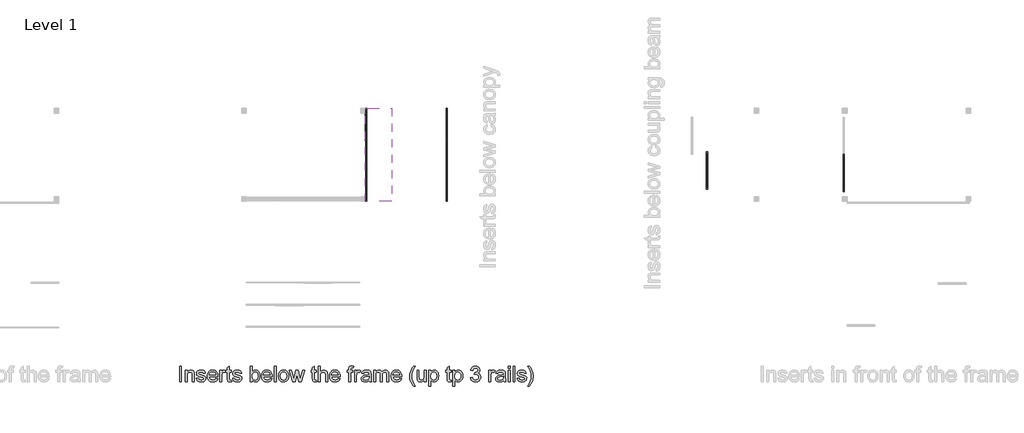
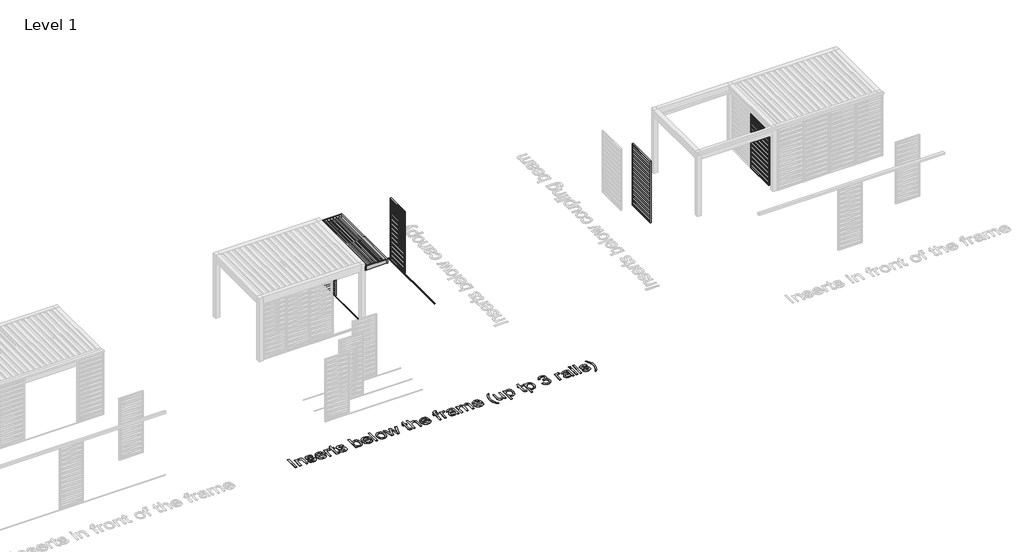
# One storey, part 29 of 80: 6 proxies.
"""IFC4 building model written with IfcOpenShell, lengths in millimetres."""

from ifc_helpers import new_model, si_unit, origin, origin_with_axes, place, context, project, spatial, polyline, outline, extrude, transform, mapped, element, save
from components import generic_models_3681f2a6, generic_models_d7c722b4, generic_models_106a7d22

model = new_model("IFC4")

# Units and contexts
model_context = context("Model", 3, world=origin())
ifc_project = project(units=[si_unit("LENGTHUNIT", "METRE", prefix="MILLI")], contexts=[model_context])

# Site, building, storey
site = spatial("IfcSite", under=ifc_project)
building = spatial("IfcBuilding", under=site)
storey = spatial("IfcBuildingStorey", under=building, Name="Level 1", Elevation=0.0)

# Proxies
placement = place(None, origin())
generic_models_shape = generic_models_3681f2a6(model_context)
element("IfcBuildingElementProxy", 1, Name="Renson_Amani_Canopy : Renson_Amani_Canopy", ObjectType="Renson_Amani_Canopy : Renson_Amani_Canopy", at=placement, inside=storey, context=model_context, shape_type="MappedRepresentation", body=[
    mapped(generic_models_shape, transform((432410.5749426, -41059.318181, 2400.0), x_axis=(0.0, 1.0, 0.0), y_axis=(-1.0, 0.0, 0.0), z_axis=(0.0, 0.0, 1.0))),
])
generic_models_2_shape = generic_models_d7c722b4(model_context)
element("IfcBuildingElementProxy", 2, Name="Renson_Amani_Loggia_Paro_Aluminium_Sliding : Renson_Amani_Loggia_Paro_Aluminium_Sliding", ObjectType="Renson_Amani_Loggia_Paro_Aluminium_Sliding : Renson_Amani_Loggia_Paro_Aluminium_Sliding", at=placement, inside=storey, context=model_context, shape_type="MappedRepresentation", body=[
    mapped(generic_models_2_shape, transform((432430.5749426, -38659.318181, 0.0), x_axis=(0.0, -1.0, 0.0), y_axis=(1.0, 0.0, 0.0), z_axis=(0.0, 0.0, 1.0))),
])
element("IfcBuildingElementProxy", 3, Name="Renson_Amani_Loggia_Paro_Aluminium_Sliding : Renson_Amani_Loggia_Paro_Aluminium_Sliding", ObjectType="Renson_Amani_Loggia_Paro_Aluminium_Sliding : Renson_Amani_Loggia_Paro_Aluminium_Sliding", at=placement, inside=storey, context=model_context, shape_type="MappedRepresentation", body=[
    mapped(generic_models_2_shape, transform((435030.5749426, -38659.318181, 0.0), x_axis=(0.0, -1.0, 0.0), y_axis=(1.0, 0.0, 0.0), z_axis=(0.0, 0.0, 1.0))),
])
generic_models_3_shape = generic_models_106a7d22(model_context)
element("IfcBuildingElementProxy", 4, Name="Renson_Amani_Loggia_Paro_Aluminium_Fix : Renson_Amani_Loggia_Paro_Aluminium_Fix", ObjectType="Renson_Amani_Loggia_Paro_Aluminium_Fix : Renson_Amani_Loggia_Paro_Aluminium_Fix", at=placement, inside=storey, context=model_context, shape_type="MappedRepresentation", body=[
    mapped(generic_models_3_shape, transform((443436.3699543, -40060.1026897, 0.0), x_axis=(0.0, -1.0, 0.0), y_axis=(1.0, 0.0, 0.0), z_axis=(0.0, 0.0, 1.0))),
])
element("IfcBuildingElementProxy", 5, Name="Renson_Amani_Loggia_Paro_Aluminium_Fix : Renson_Amani_Loggia_Paro_Aluminium_Fix", ObjectType="Renson_Amani_Loggia_Paro_Aluminium_Fix : Renson_Amani_Loggia_Paro_Aluminium_Fix", at=placement, inside=storey, context=model_context, shape_type="MappedRepresentation", body=[
    mapped(generic_models_3_shape, transform((447856.3699543, -40140.1026897, 0.0), x_axis=(0.0, -1.0, 0.0), y_axis=(1.0, 0.0, 0.0), z_axis=(0.0, 0.0, 1.0))),
])
element("IfcBuildingElementProxy", 6, Name="500mm Arial", ObjectType="500mm Arial", at=placement, inside=storey, context=model_context, shape_type="SweptSolid", body=[
    extrude(outline(polyline([(426406.2654479, -46882.3382736), (426406.2654479, -46380.0567228), (426469.0506417, -46380.0567228), (426469.0506417, -46882.3382736), (426406.2654479, -46882.3382736)])), origin_with_axes(), (0.0, 0.0, 1.0), 5.0),
    extrude(outline(polyline([(426586.7728802, -46882.3382736), (426586.7728802, -46513.4752597), (426649.558074, -46513.4752597), (426649.558074, -46564.9787391), (426671.3704107, -46539.0124016), (426697.5666744, -46520.4650176), (426728.1468653, -46509.3365873), (426763.1109832, -46505.6271105), (426794.0590561, -46508.6161517), (426822.4012981, -46517.5832753), (426846.0377163, -46531.409507), (426862.8683176, -46548.9758723), (426874.2879879, -46570.2363859), (426881.691613, -46595.1450627), (426885.002551, -46655.8455919), (426885.002551, -46882.3382736), (426822.2173571, -46882.3382736), (426822.2173571, -46664.3068778), (426820.408604, -46631.8412917), (426814.9823445, -46608.7566965), (426804.9728886, -46592.2173351), (426789.4145459, -46579.3874505), (426769.4722761, -46571.1560909), (426746.3110388, -46568.4123043), (426727.2463208, -46569.9528102), (426709.5381677, -46574.5743278), (426693.1865794, -46582.276857), (426678.191556, -46593.060398), (426665.6644076, -46608.151224), (426656.7164445, -46628.7756084), (426651.3476667, -46654.9335511), (426649.558074, -46686.6250521), (426649.558074, -46882.3382736), (426586.7728802, -46882.3382736)])), origin_with_axes(), (0.0, 0.0, 1.0), 5.0),
    extrude(outline(polyline([(426947.7877448, -46772.4641843), (427010.5729386, -46764.6160351), (427020.4750957, -46791.4714208), (427039.6356163, -46811.2144212), (427068.1771277, -46823.354527), (427106.2222574, -46827.4012289), (427143.8075346, -46823.6917522), (427170.2337246, -46812.5633218), (427185.8687093, -46796.4378277), (427191.0803709, -46777.7371596), (427185.8380525, -46761.7342928), (427170.1110972, -46749.5328733), (427105.4864934, -46731.6292829), (427048.1888727, -46715.0592647), (427010.9408206, -46700.9111363), (426987.0131625, -46685.4754209), (426969.6767235, -46665.0426417), (426959.1461014, -46640.9157142), (426955.635894, -46614.3975537), (426958.4563227, -46590.0713568), (426966.9176086, -46567.6152267), (426980.2533309, -46547.9182115), (426997.6970688, -46531.8693595), (427015.0335078, -46521.767933), (427037.6122653, -46513.2913187), (427063.7165585, -46507.5431626), (427091.6296049, -46505.6271105), (427132.4951632, -46508.7081222), (427168.0264326, -46517.9511573), (427196.5986009, -46532.4518393), (427216.5868559, -46551.3057916), (427229.8306078, -46575.9079), (427238.1692663, -46607.6530505), (427175.3840725, -46615.5011997), (427167.4592812, -46595.7428709), (427151.7783111, -46580.8589785), (427128.1878782, -46571.5239729), (427096.5346982, -46568.4123043), (427060.4822627, -46571.3860171), (427036.4473056, -46580.3071555), (427022.9276423, -46593.1830254), (427018.4210879, -46608.0209325), (427020.2911547, -46617.6778349), (427025.9013551, -46626.2924049), (427035.4969438, -46633.98727), (427049.3231755, -46640.1492934), (427103.4018288, -46653.5156726), (427195.5562686, -46683.0688595), (427219.8977939, -46697.2016595), (427238.3532073, -46716.5461211), (427249.9874754, -46741.1635579), (427253.8655648, -46771.1152837), (427249.3130251, -46802.0786849), (427235.655406, -46831.2026762), (427213.4138737, -46856.2033235), (427183.1095944, -46874.7966927), (427146.5053359, -46886.3389903), (427105.3638661, -46890.1864228), (427071.572372, -46888.3316844), (427042.0575061, -46882.7674692), (427016.8192684, -46873.4937773), (426995.8576588, -46860.5106085), (426978.7358176, -46843.8792767), (426965.0168849, -46823.6610953), (426954.7008606, -46799.8560646), (426947.7877448, -46772.4641843)])), origin_with_axes(), (0.0, 0.0, 1.0), 5.0),
    extrude(outline(polyline([(427582.7520685, -46772.4641843), (427644.310989, -46780.3123336), (427634.8725166, -46804.9680915), (427622.1307704, -46826.6961218), (427606.0857504, -46845.4964246), (427586.7374568, -46861.3689998), (427564.2851587, -46873.9766224), (427538.9281258, -46882.9820671), (427510.6663579, -46888.3853339), (427479.4998552, -46890.1864228), (427440.5426847, -46887.0785864), (427405.8314856, -46877.755077), (427375.3662579, -46862.2158948), (427349.1470015, -46840.4610398), (427328.0627647, -46813.0959843), (427313.0025955, -46780.7262008), (427303.966494, -46743.3516894), (427300.9544602, -46700.9724499), (427303.9971508, -46657.1561715), (427313.1252228, -46618.5362262), (427328.3386762, -46585.1126141), (427349.6375109, -46556.8853352), (427375.7877894, -46534.4598619), (427405.5555741, -46518.4416667), (427438.9408652, -46508.8307495), (427475.9436625, -46505.6271105), (427511.7546755, -46508.8230853), (427544.1397874, -46518.4110098), (427573.0989982, -46534.390884), (427598.6323079, -46556.7627078), (427619.4751222, -46584.9286731), (427634.3628467, -46618.2909715), (427643.2954814, -46656.8496031), (427646.2730263, -46700.6045679), (427645.9051443, -46717.5271397), (427363.739654, -46717.5271397), (427367.3763208, -46742.5814364), (427374.6075013, -46764.5240646), (427385.4331954, -46783.3550242), (427399.8534032, -46799.0743153), (427417.071047, -46811.46734), (427436.2890491, -46820.3195005), (427457.5074096, -46825.6307968), (427480.7261285, -46827.4012289), (427514.1420764, -46824.1209478), (427542.285049, -46814.2801045), (427565.1550464, -46797.2655622), (427582.7520685, -46772.4641843)]), holes=[polyline([(427363.739654, -46654.7419459), (427583.4878325, -46654.7419459), (427574.9958897, -46621.5712526), (427558.3492295, -46597.842864), (427541.2273883, -46584.9669941), (427521.7449709, -46575.7699442), (427499.9019775, -46570.2517143), (427475.6984079, -46568.4123043), (427433.37665, -46574.2830879), (427414.9633897, -46581.6215672), (427398.3818752, -46591.8954384), (427384.4675052, -46604.6295203), (427374.0556783, -46619.3486323), (427367.1463946, -46636.0527741), (427363.739654, -46654.7419459)])]), origin_with_axes(), (0.0, 0.0, 1.0), 5.0),
    extrude(outline(polyline([(428077.921234, -46829.9764029), (428085.7693832, -46884.1776835), (428038.8031152, -46890.1864228), (428008.6674484, -46887.580592), (427986.1959899, -46879.7630996), (427970.3157504, -46867.7149643), (427959.9537409, -46852.4172046), (427954.2515699, -46826.1442988), (427952.3508463, -46781.1707249), (427952.3508463, -46576.2604536), (427905.2619509, -46576.2604536), (427905.2619509, -46525.0022289), (427905.2619509, -46513.4752597), (427952.3508463, -46513.4752597), (427952.3508463, -46423.8346802), (428015.1360401, -46386.9238534), (428015.1360401, -46513.4752597), (428077.921234, -46513.4752597), (428077.921234, -46576.2604536), (428015.1360401, -46576.2604536), (428015.1360401, -46779.3313149), (428018.4469781, -46811.7049305), (428029.1768696, -46823.170586), (428050.575339, -46827.4012289), (428077.921234, -46829.9764029)])), origin_with_axes(), (0.0, 0.0, 1.0), 5.0),
    extrude(outline(polyline([(427709.0582202, -46882.3382736), (427709.0582202, -46513.4752597), (427763.9952648, -46513.4752597), (427763.9952648, -46568.0444223), (427784.2900882, -46536.4065708), (427802.9907563, -46517.7672163), (427821.752738, -46508.662137), (427842.2315024, -46505.6271105), (427873.501472, -46510.4708901), (427905.2619509, -46525.0022289), (427884.2926772, -46581.2881742), (427862.2197575, -46571.6312718), (427840.1468378, -46568.4123043), (427821.4001844, -46571.5086445), (427804.6462252, -46580.7976648), (427791.1112335, -46595.5742583), (427782.0214825, -46615.1333177), (427774.3879311, -46650.2047346), (427771.843414, -46688.4644621), (427771.843414, -46882.3382736), (427709.0582202, -46882.3382736)])), origin_with_axes(), (0.0, 0.0, 1.0), 5.0),
    extrude(outline(polyline([(428117.1619801, -46772.4641843), (428179.947174, -46764.6160351), (428189.849331, -46791.4714208), (428209.0098516, -46811.2144212), (428237.5513631, -46823.354527), (428275.5964927, -46827.4012289), (428313.1817699, -46823.6917522), (428339.6079599, -46812.5633218), (428355.2429447, -46796.4378277), (428360.4546063, -46777.7371596), (428355.2122879, -46761.7342928), (428339.4853326, -46749.5328733), (428274.8607287, -46731.6292829), (428217.563108, -46715.0592647), (428180.315056, -46700.9111363), (428156.3873979, -46685.4754209), (428139.0509589, -46665.0426417), (428128.5203367, -46640.9157142), (428125.0101294, -46614.3975537), (428127.830558, -46590.0713568), (428136.2918439, -46567.6152267), (428149.6275662, -46547.9182115), (428167.0713042, -46531.8693595), (428184.4077432, -46521.767933), (428206.9865006, -46513.2913187), (428233.0907939, -46507.5431626), (428261.0038403, -46505.6271105), (428301.8693986, -46508.7081222), (428337.4006679, -46517.9511573), (428365.9728362, -46532.4518393), (428385.9610913, -46551.3057916), (428399.2048431, -46575.9079), (428407.5435017, -46607.6530505), (428344.7583078, -46615.5011997), (428336.8335165, -46595.7428709), (428321.1525465, -46580.8589785), (428297.5621135, -46571.5239729), (428265.9089335, -46568.4123043), (428229.856498, -46571.3860171), (428205.821541, -46580.3071555), (428192.3018777, -46593.1830254), (428187.7953232, -46608.0209325), (428189.66539, -46617.6778349), (428195.2755904, -46626.2924049), (428204.8711792, -46633.98727), (428218.6974108, -46640.1492934), (428272.7760641, -46653.5156726), (428364.9305039, -46683.0688595), (428389.2720292, -46697.2016595), (428407.7274427, -46716.5461211), (428419.3617108, -46741.1635579), (428423.2398001, -46771.1152837), (428418.6872604, -46802.0786849), (428405.0296414, -46831.2026762), (428382.7881091, -46856.2033235), (428352.4838297, -46874.7966927), (428315.8795712, -46886.3389903), (428274.7381014, -46890.1864228), (428240.9466073, -46888.3316844), (428211.4317414, -46882.7674692), (428186.1935037, -46873.4937773), (428165.2318942, -46860.5106085), (428148.110053, -46843.8792767), (428134.3911202, -46823.6610953), (428124.075096, -46799.8560646), (428117.1619801, -46772.4641843)])), origin_with_axes(), (0.0, 0.0, 1.0), 5.0),
    extrude(outline(polyline([(428752.8620678, -46882.3382736), (428690.076874, -46882.3382736), (428690.076874, -46380.0567228), (428752.8620678, -46380.0567228), (428752.8620678, -46566.3276397), (428773.5094448, -46539.7711582), (428796.8239662, -46520.8022428), (428822.8056321, -46509.4208936), (428851.4544425, -46505.6271105), (428883.7974013, -46509.0453474), (428914.3622637, -46519.300058), (428941.4015903, -46535.7474489), (428963.1679417, -46557.7437265), (428980.2284692, -46585.074293), (428993.1503243, -46617.5245507), (429001.2897135, -46653.7455988), (429004.0028432, -46692.3885367), (429001.1939109, -46736.9789002), (428992.7671139, -46776.204318), (428978.7224523, -46810.0647899), (428959.0599261, -46838.5603161), (428935.4579968, -46861.1467378), (428909.5951262, -46877.2798961), (428881.4713141, -46886.9597911), (428851.0865605, -46890.1864228), (428821.4950525, -46886.0247577), (428795.2604677, -46873.5397625), (428772.3828062, -46852.7314372), (428752.8620678, -46823.5997817), (428752.8620678, -46882.3382736)]), holes=[polyline([(428752.8620678, -46695.3315927), (428757.1540244, -46747.6934633), (428762.5189702, -46767.5284342), (428770.0298942, -46783.1327622), (428785.2433476, -46802.5002164), (428802.924676, -46816.3341123), (428823.0738794, -46824.6344498), (428845.6909579, -46827.4012289), (428864.4682681, -46825.3625496), (428881.9273344, -46819.2465114), (428898.068157, -46809.0531144), (428912.8907357, -46794.7823587), (428925.2837604, -46776.4725652), (428934.1359209, -46754.1620551), (428939.4472172, -46727.8508282), (428941.2176493, -46697.5388847), (428939.5200272, -46666.6521255), (428934.4271608, -46640.0879797), (428925.9390502, -46617.8464474), (428914.0556954, -46599.9275286), (428899.7657791, -46586.139618), (428884.0579843, -46576.2911104), (428866.932311, -46570.3820059), (428848.3887592, -46568.4123043), (428829.611449, -46570.4509837), (428812.1523827, -46576.5670219), (428796.0115602, -46586.7604189), (428781.1889814, -46601.0311746), (428768.7959567, -46619.1570271), (428759.9437962, -46640.9157142), (428754.6324999, -46666.3072361), (428752.8620678, -46695.3315927)])]), origin_with_axes(), (0.0, 0.0, 1.0), 5.0),
    extrude(outline(polyline([(429332.8893469, -46772.4641843), (429394.4482674, -46780.3123336), (429385.009795, -46804.9680915), (429372.2680488, -46826.6961218), (429356.2230288, -46845.4964246), (429336.8747351, -46861.3689998), (429314.4224371, -46873.9766224), (429289.0654042, -46882.9820671), (429260.8036363, -46888.3853339), (429229.6371336, -46890.1864228), (429190.6799631, -46887.0785864), (429155.968764, -46877.755077), (429125.5035363, -46862.2158948), (429099.2842799, -46840.4610398), (429078.2000431, -46813.0959843), (429063.1398739, -46780.7262008), (429054.1037724, -46743.3516894), (429051.0917386, -46700.9724499), (429054.1344292, -46657.1561715), (429063.2625012, -46618.5362262), (429078.4759546, -46585.1126141), (429099.7747893, -46556.8853352), (429125.9250677, -46534.4598619), (429155.6928525, -46518.4416667), (429189.0781436, -46508.8307495), (429226.0809409, -46505.6271105), (429261.8919539, -46508.8230853), (429294.2770658, -46518.4110098), (429323.2362766, -46534.390884), (429348.7695863, -46556.7627078), (429369.6124006, -46584.9286731), (429384.5001251, -46618.2909715), (429393.4327598, -46656.8496031), (429396.4103047, -46700.6045679), (429396.0424227, -46717.5271397), (429113.8769324, -46717.5271397), (429117.5135992, -46742.5814364), (429124.7447797, -46764.5240646), (429135.5704738, -46783.3550242), (429149.9906816, -46799.0743153), (429167.2083254, -46811.46734), (429186.4263275, -46820.3195005), (429207.644688, -46825.6307968), (429230.8634069, -46827.4012289), (429264.2793548, -46824.1209478), (429292.4223274, -46814.2801045), (429315.2923248, -46797.2655622), (429332.8893469, -46772.4641843)]), holes=[polyline([(429113.8769324, -46654.7419459), (429333.6251109, -46654.7419459), (429325.1331681, -46621.5712526), (429308.4865079, -46597.842864), (429291.3646667, -46584.9669941), (429271.8822493, -46575.7699442), (429250.0392559, -46570.2517143), (429225.8356863, -46568.4123043), (429183.5139284, -46574.2830879), (429165.1006681, -46581.6215672), (429148.5191536, -46591.8954384), (429134.6047836, -46604.6295203), (429124.1929567, -46619.3486323), (429117.283673, -46636.0527741), (429113.8769324, -46654.7419459)])]), origin_with_axes(), (0.0, 0.0, 1.0), 5.0),
    extrude(outline(polyline([(429459.1954985, -46882.3382736), (429459.1954985, -46380.0567228), (429521.9806924, -46380.0567228), (429521.9806924, -46882.3382736), (429459.1954985, -46882.3382736)])), origin_with_axes(), (0.0, 0.0, 1.0), 5.0),
    extrude(outline(polyline([(429600.4621847, -46697.9067666), (429603.8574289, -46650.1357567), (429614.0431617, -46608.9712943), (429631.0193829, -46574.4133794), (429654.7860926, -46546.462012), (429678.7137507, -46528.5967426), (429705.1246123, -46515.8358359), (429734.0186774, -46508.1792918), (429765.3959459, -46505.6271105), (429800.034335, -46508.7349469), (429831.3541219, -46518.0584563), (429859.3553067, -46533.5976384), (429884.0378893, -46555.3524935), (429904.1832606, -46582.5872575), (429918.5728116, -46614.5661663), (429927.2065422, -46651.2892201), (429930.0844524, -46692.7564187), (429924.9954181, -46756.185406), (429918.6341253, -46782.2207214), (429909.7283153, -46804.4699179), (429898.3891192, -46823.6879201), (429884.727668, -46840.6296524), (429868.7439618, -46855.2951148), (429850.4380004, -46867.6843074), (429809.7103979, -46884.560894), (429765.3959459, -46890.1864228), (429730.251719, -46887.0900827), (429698.6406922, -46877.8010623), (429670.5628653, -46862.3193617), (429646.0182384, -46840.6449808), (429626.0874649, -46813.1458016), (429611.8511981, -46780.1897062), (429603.3094381, -46741.7766946), (429600.4621847, -46697.9067666)]), holes=[polyline([(429663.2473785, -46697.7841393), (429665.0637959, -46728.2378707), (429670.5130479, -46754.6065792), (429679.5951347, -46776.8902646), (429692.3100562, -46795.088927), (429707.7764284, -46809.2255591), (429725.1128674, -46819.3231535), (429744.3193732, -46825.3817101), (429765.3959459, -46827.4012289), (429786.3652196, -46825.3702138), (429805.4950833, -46819.2771682), (429822.7855371, -46809.1220923), (429838.2365809, -46794.904986), (429850.9515024, -46776.5262147), (429860.0335891, -46753.8861436), (429865.4828412, -46726.9847727), (429867.2992585, -46695.822102), (429865.4713449, -46666.3340608), (429859.9876039, -46640.6551311), (429850.8480356, -46618.785313), (429838.0526399, -46600.7246063), (429822.5441146, -46586.5879742), (429805.2651571, -46576.4903798), (429786.2157675, -46570.4318232), (429765.3959459, -46568.4123043), (429744.3193732, -46570.424159), (429725.1128674, -46576.459723), (429707.7764284, -46586.5189963), (429692.3100562, -46600.6019789), (429679.5951347, -46618.7469919), (429670.5130479, -46640.9923563), (429665.0637959, -46667.3380721), (429663.2473785, -46697.7841393)])]), origin_with_axes(), (0.0, 0.0, 1.0), 5.0),
    extrude(outline(polyline([(430061.908834, -46882.3382736), (429949.7048254, -46513.4752597), (430014.9425659, -46513.4752597), (430078.5861511, -46728.6862269), (430097.5933875, -46805.5735639), (430113.1670586, -46731.5066555), (430163.8121466, -46513.4752597), (430238.614819, -46513.4752597), (430289.0146523, -46730.8935189), (430302.8715408, -46797.9706693), (430322.7371686, -46727.2146989), (430386.5033811, -46513.4752597), (430451.9863762, -46513.4752597), (430338.9239763, -46882.3382736), (430263.017658, -46882.3382736), (430214.8251166, -46666.0236604), (430200.8456008, -46598.5786279), (430138.6735436, -46882.3382736), (430061.908834, -46882.3382736)])), origin_with_axes(), (0.0, 0.0, 1.0), 5.0),
    extrude(outline(polyline([(430824.7734646, -46829.9764029), (430832.6216139, -46884.1776835), (430785.6553458, -46890.1864228), (430755.519679, -46887.580592), (430733.0482205, -46879.7630996), (430717.1679811, -46867.7149643), (430706.8059715, -46852.4172046), (430701.1038006, -46826.1442988), (430699.203077, -46781.1707249), (430699.203077, -46576.2604536), (430652.1141816, -46576.2604536), (430652.1141816, -46513.4752597), (430699.203077, -46513.4752597), (430699.203077, -46423.8346802), (430761.9882708, -46386.9238534), (430761.9882708, -46513.4752597), (430824.7734646, -46513.4752597), (430824.7734646, -46576.2604536), (430761.9882708, -46576.2604536), (430761.9882708, -46779.3313149), (430765.2992088, -46811.7049305), (430776.0291003, -46823.170586), (430797.4275697, -46827.4012289), (430824.7734646, -46829.9764029)])), origin_with_axes(), (0.0, 0.0, 1.0), 5.0),
    extrude(outline(polyline([(430887.5586585, -46882.3382736), (430887.5586585, -46380.0567228), (430950.3438523, -46380.0567228), (430950.3438523, -46564.7334844), (430973.4054549, -46538.8744458), (430999.3028145, -46520.403704), (431028.0359312, -46509.3212589), (431059.6048049, -46505.6271105), (431097.5273072, -46509.658484), (431130.1155206, -46521.7526046), (431155.7752898, -46540.9591105), (431172.9124594, -46566.3276397), (431182.5693618, -46601.1844587), (431185.7883292, -46648.855834), (431185.7883292, -46882.3382736), (431123.0031354, -46882.3382736), (431123.0031354, -46655.3550825), (431118.0060716, -46616.0530227), (431111.7597419, -46601.046503), (431103.0148803, -46589.1363234), (431091.9784205, -46580.0695651), (431078.857296, -46573.5933091), (431046.3610531, -46568.4123043), (431019.8275642, -46571.9071833), (430994.9188874, -46582.3918202), (430974.2868388, -46598.8545394), (430960.5832345, -46620.2836657), (430952.9036979, -46648.7638635), (430950.3438523, -46686.3797975), (430950.3438523, -46882.3382736), (430887.5586585, -46882.3382736)])), origin_with_axes(), (0.0, 0.0, 1.0), 5.0),
    extrude(outline(polyline([(431530.3711314, -46772.4641843), (431591.9300519, -46780.3123336), (431582.4915795, -46804.9680915), (431569.7498333, -46826.6961218), (431553.7048134, -46845.4964246), (431534.3565197, -46861.3689998), (431511.9042217, -46873.9766224), (431486.5471887, -46882.9820671), (431458.2854209, -46888.3853339), (431427.1189181, -46890.1864228), (431388.1617476, -46887.0785864), (431353.4505485, -46877.755077), (431322.9853208, -46862.2158948), (431296.7660645, -46840.4610398), (431275.6818276, -46813.0959843), (431260.6216584, -46780.7262008), (431251.5855569, -46743.3516894), (431248.5735231, -46700.9724499), (431251.6162138, -46657.1561715), (431260.7442858, -46618.5362262), (431275.9577391, -46585.1126141), (431297.2565738, -46556.8853352), (431323.4068523, -46534.4598619), (431353.174637, -46518.4416667), (431386.5599281, -46508.8307495), (431423.5627255, -46505.6271105), (431459.3737384, -46508.8230853), (431491.7588503, -46518.4110098), (431520.7180611, -46534.390884), (431546.2513708, -46556.7627078), (431567.0941851, -46584.9286731), (431581.9819096, -46618.2909715), (431590.9145443, -46656.8496031), (431593.8920892, -46700.6045679), (431593.5242072, -46717.5271397), (431311.3587169, -46717.5271397), (431314.9953837, -46742.5814364), (431322.2265642, -46764.5240646), (431333.0522583, -46783.3550242), (431347.4724661, -46799.0743153), (431364.6901099, -46811.46734), (431383.9081121, -46820.3195005), (431405.1264726, -46825.6307968), (431428.3451914, -46827.4012289), (431461.7611393, -46824.1209478), (431489.9041119, -46814.2801045), (431512.7741093, -46797.2655622), (431530.3711314, -46772.4641843)]), holes=[polyline([(431311.3587169, -46654.7419459), (431531.1068954, -46654.7419459), (431522.6149527, -46621.5712526), (431505.9682924, -46597.842864), (431488.8464512, -46584.9669941), (431469.3640339, -46575.7699442), (431447.5210404, -46570.2517143), (431423.3174708, -46568.4123043), (431380.9957129, -46574.2830879), (431362.5824527, -46581.6215672), (431346.0009381, -46591.8954384), (431332.0865681, -46604.6295203), (431321.6747412, -46619.3486323), (431314.7654575, -46636.0527741), (431311.3587169, -46654.7419459)])]), origin_with_axes(), (0.0, 0.0, 1.0), 5.0),
    extrude(outline(polyline([(431868.5773123, -46882.3382736), (431868.5773123, -46576.2604536), (431813.6402677, -46576.2604536), (431813.6402677, -46513.4752597), (431868.5773123, -46513.4752597), (431868.5773123, -46476.3191782), (431870.2327813, -46445.5703748), (431875.1991882, -46423.9573076), (431887.8298034, -46403.0800043), (431907.3275491, -46386.5559714), (431934.6121304, -46375.795423), (431970.6032523, -46372.2085736), (432027.8702162, -46379.0757042), (432018.6731663, -46437.9368234), (431982.4981035, -46434.9937674), (431958.631759, -46437.5995982), (431942.950789, -46445.4170906), (431934.2595768, -46460.3469683), (431931.3625061, -46484.2899548), (431931.3625061, -46513.4752597), (432001.9958492, -46513.4752597), (432001.9958492, -46576.2604536), (431931.3625061, -46576.2604536), (431931.3625061, -46882.3382736), (431868.5773123, -46882.3382736)])), origin_with_axes(), (0.0, 0.0, 1.0), 5.0),
    extrude(outline(polyline([(432056.9328938, -46882.3382736), (432056.9328938, -46513.4752597), (432111.8699384, -46513.4752597), (432111.8699384, -46568.0444223), (432132.1647618, -46536.4065708), (432150.8654299, -46517.7672163), (432169.6274117, -46508.662137), (432190.1061761, -46505.6271105), (432221.3761457, -46510.4708901), (432253.1366246, -46525.0022289), (432232.1673509, -46581.2881742), (432210.0944311, -46571.6312718), (432188.0215114, -46568.4123043), (432169.2748581, -46571.5086445), (432152.5208989, -46580.7976648), (432138.9859072, -46595.5742583), (432129.8961562, -46615.1333177), (432122.2626048, -46650.2047346), (432119.7180877, -46688.4644621), (432119.7180877, -46882.3382736), (432056.9328938, -46882.3382736)])), origin_with_axes(), (0.0, 0.0, 1.0), 5.0),
    extrude(outline(polyline([(432527.8218476, -46835.2493782), (432497.8241366, -46860.970461), (432466.9373774, -46877.8010623), (432434.456463, -46887.0900827), (432399.676286, -46890.1864228), (432371.7210865, -46888.3240202), (432347.2071164, -46882.7368124), (432326.1343759, -46873.4247994), (432308.5028649, -46860.3879812), (432294.5808306, -46844.4540923), (432284.6365204, -46826.4508671), (432278.6699343, -46806.3783058), (432276.6810723, -46784.2364082), (432279.6854419, -46758.208757), (432288.6985508, -46734.5723388), (432302.6014245, -46714.3388291), (432320.2750887, -46698.5199033), (432341.045093, -46686.5637385), (432364.2369871, -46677.9185116), (432418.5608951, -46668.476207), (432482.7563032, -46658.5433932), (432527.4539657, -46646.8937966), (432527.8218476, -46632.9142808), (432523.4992342, -46604.8939355), (432510.5313939, -46586.5611494), (432497.4562546, -46578.6210297), (432481.5300299, -46572.9495156), (432441.1243241, -46568.4123043), (432403.7229879, -46571.4320024), (432377.6033663, -46580.4910965), (432359.7917463, -46597.2450557), (432347.3144153, -46623.349349), (432284.5292215, -46615.5011997), (432295.4277256, -46581.1655468), (432311.6911755, -46554.1875339), (432334.8370843, -46533.5554853), (432366.3829654, -46518.2577257), (432404.9645897, -46508.7847643), (432449.217728, -46505.6271105), (432491.6621132, -46508.4168823), (432525.3079873, -46516.7861977), (432550.6765166, -46529.3708276), (432568.2888671, -46544.806543), (432579.9691205, -46563.8904215), (432587.5413582, -46587.4195408), (432590.6070415, -46642.3565854), (432590.6070415, -46720.4701957), (432593.7953521, -46829.5472073), (432598.5165044, -46856.5098918), (432606.3033399, -46882.3382736), (432543.5181461, -46882.3382736), (432533.4627049, -46860.5106085), (432527.8218476, -46835.2493782)]), holes=[polyline([(432527.8218476, -46709.6789905), (432485.6380455, -46720.1329705), (432426.5316716, -46728.9314816), (432372.514332, -46739.1095501), (432358.4581741, -46746.0686512), (432348.0501793, -46755.6642399), (432341.6122444, -46767.1605522), (432339.4662661, -46779.8218242), (432344.1414331, -46798.4918355), (432358.1669342, -46813.7895951), (432381.236201, -46823.9983205), (432413.0426652, -46827.4012289), (432446.7651814, -46823.6457669), (432476.563623, -46812.3793808), (432500.7212073, -46795.7787058), (432517.5211518, -46776.020377), (432524.9707622, -46755.6642399), (432527.4539657, -46727.4599536), (432527.8218476, -46709.6789905)])]), origin_with_axes(), (0.0, 0.0, 1.0), 5.0),
    extrude(outline(polyline([(432676.936683, -46882.3382736), (432676.936683, -46513.4752597), (432739.7218769, -46513.4752597), (432739.7218769, -46574.1757889), (432758.606486, -46546.2933994), (432782.8866976, -46524.4504059), (432811.7347774, -46510.3329344), (432844.3229908, -46505.6271105), (432879.2411235, -46510.4249049), (432907.230812, -46524.8182879), (432928.1387721, -46547.8568979), (432941.8117196, -46578.5903729), (432964.6970453, -46546.6689456), (432990.8013386, -46523.8679261), (433020.1245993, -46510.1873144), (433052.6668274, -46505.6271105), (433077.8015983, -46507.524002), (433099.8630217, -46513.2146767), (433118.8510976, -46522.6991343), (433134.765826, -46535.9773751), (433147.3466238, -46553.2026831), (433156.332908, -46574.5283425), (433161.7246785, -46599.9543533), (433163.5219353, -46629.4807155), (433163.5219353, -46882.3382736), (433100.7367415, -46882.3382736), (433100.7367415, -46656.4587285), (433099.2805419, -46625.1427737), (433094.9119432, -46604.0355442), (433086.7265688, -46589.5808475), (433073.8200422, -46578.2224909), (433057.2193671, -46570.864851), (433037.9515476, -46568.4123043), (433020.1590882, -46569.983467), (433003.9377915, -46574.6969551), (432989.2876574, -46582.5527685), (432976.2086861, -46593.5509073), (432965.4519698, -46608.0132683), (432957.7686011, -46626.2617481), (432953.1585798, -46648.2963468), (432951.6219061, -46674.1170643), (432951.6219061, -46882.3382736), (432888.8367122, -46882.3382736), (432888.8367122, -46649.4689706), (432885.2038775, -46613.9683581), (432874.3053734, -46588.6458141), (432865.8785765, -46579.7936536), (432855.1295244, -46573.4706818), (432826.6646551, -46568.4123043), (432802.4764139, -46571.784556), (432780.1888963, -46581.9013108), (432761.7947966, -46598.5173143), (432749.2868087, -46621.3873117), (432742.1131098, -46653.1171337), (432739.7218769, -46696.3126113), (432739.7218769, -46882.3382736), (432676.936683, -46882.3382736)])), origin_with_axes(), (0.0, 0.0, 1.0), 5.0),
    extrude(outline(polyline([(433515.9528867, -46772.4641843), (433577.5118072, -46780.3123336), (433568.0733348, -46804.9680915), (433555.3315886, -46826.6961218), (433539.2865687, -46845.4964246), (433519.938275, -46861.3689998), (433497.485977, -46873.9766224), (433472.128944, -46882.9820671), (433443.8671762, -46888.3853339), (433412.7006734, -46890.1864228), (433373.7435029, -46887.0785864), (433339.0323038, -46877.755077), (433308.5670761, -46862.2158948), (433282.3478198, -46840.4610398), (433261.2635829, -46813.0959843), (433246.2034137, -46780.7262008), (433237.1673122, -46743.3516894), (433234.1552784, -46700.9724499), (433237.1979691, -46657.1561715), (433246.3260411, -46618.5362262), (433261.5394944, -46585.1126141), (433282.8383291, -46556.8853352), (433308.9886076, -46534.4598619), (433338.7563923, -46518.4416667), (433372.1416834, -46508.8307495), (433409.1444808, -46505.6271105), (433444.9554937, -46508.8230853), (433477.3406056, -46518.4110098), (433506.2998164, -46534.390884), (433531.8331261, -46556.7627078), (433552.6759404, -46584.9286731), (433567.5636649, -46618.2909715), (433576.4962996, -46656.8496031), (433579.4738445, -46700.6045679), (433579.1059625, -46717.5271397), (433296.9404722, -46717.5271397), (433300.577139, -46742.5814364), (433307.8083195, -46764.5240646), (433318.6340136, -46783.3550242), (433333.0542214, -46799.0743153), (433350.2718652, -46811.46734), (433369.4898674, -46820.3195005), (433390.7082279, -46825.6307968), (433413.9269467, -46827.4012289), (433447.3428946, -46824.1209478), (433475.4858672, -46814.2801045), (433498.3558646, -46797.2655622), (433515.9528867, -46772.4641843)]), holes=[polyline([(433296.9404722, -46654.7419459), (433516.6886507, -46654.7419459), (433508.196708, -46621.5712526), (433491.5500477, -46597.842864), (433474.4282065, -46584.9669941), (433454.9457892, -46575.7699442), (433433.1027957, -46570.2517143), (433408.8992261, -46568.4123043), (433366.5774682, -46574.2830879), (433348.164208, -46581.6215672), (433331.5826934, -46591.8954384), (433317.6683234, -46604.6295203), (433307.2564965, -46619.3486323), (433300.3472128, -46636.0527741), (433296.9404722, -46654.7419459)])]), origin_with_axes(), (0.0, 0.0, 1.0), 5.0),
    extrude(outline(polyline([(433964.0331568, -47023.6049597), (433938.6876202, -46990.8098127), (433915.380763, -46955.3321928), (433874.8830867, -46876.3295343), (433858.9491977, -46833.7625218), (433847.5678485, -46790.4290884), (433840.739039, -46746.3292343), (433838.4627691, -46701.4629593), (433840.1642234, -46662.0306079), (433845.268586, -46623.4413195), (433853.7758572, -46585.6950939), (433865.6860368, -46548.7919313), (433883.7888966, -46506.4701734), (433906.2143699, -46464.240386), (433932.9624566, -46422.1025692), (433964.0331568, -46380.0567228), (434011.1220522, -46380.0567228), (433952.3835603, -46479.5074888), (433932.3339916, -46526.7190116), (433917.0668888, -46575.8925716), (433905.2026944, -46638.7084223), (433901.247963, -46701.8308413), (433902.9647456, -46742.0794308), (433908.1150935, -46782.3203561), (433916.6990068, -46822.5536172), (433928.7164853, -46862.7792142), (433963.0521382, -46943.2074153), (434011.1220522, -47023.6049597), (433964.0331568, -47023.6049597)])), origin_with_axes(), (0.0, 0.0, 1.0), 5.0),
    extrude(outline(polyline([(434309.351723, -46882.3382736), (434309.351723, -46818.9399431), (434286.6350098, -46850.1102779), (434260.1781629, -46872.3748029), (434229.9811825, -46885.7335178), (434196.0440684, -46890.1864228), (434165.4638776, -46887.0594258), (434136.9990082, -46877.678435), (434113.1173354, -46863.5762918), (434096.2867341, -46846.285838), (434084.9590343, -46825.2859075), (434077.586066, -46800.055334), (434073.907246, -46741.6847241), (434073.907246, -46513.4752597), (434136.6924399, -46513.4752597), (434136.6924399, -46712.1315371), (434140.4938872, -46776.1430043), (434149.6449518, -46797.4954884), (434165.3259218, -46813.7282815), (434186.494465, -46823.9829921), (434212.1082489, -46827.4012289), (434239.1935608, -46823.90635), (434264.5314332, -46813.4217131), (434285.4240649, -46796.9130086), (434299.1736544, -46775.3459266), (434306.8072058, -46745.8080681), (434309.351723, -46705.3870339), (434309.351723, -46513.4752597), (434372.1369168, -46513.4752597), (434372.1369168, -46882.3382736), (434309.351723, -46882.3382736)])), origin_with_axes(), (0.0, 0.0, 1.0), 5.0),
    extrude(outline(polyline([(434458.4665583, -47023.6049597), (434458.4665583, -46513.4752597), (434521.2517522, -46513.4752597), (434521.2517522, -46575.0341803), (434541.7305166, -46544.6685872), (434564.6618276, -46522.9788779), (434591.3945859, -46509.9650524), (434623.2776922, -46505.6271105), (434645.1743351, -46507.1446237), (434665.7374058, -46511.6971634), (434684.9669042, -46519.2847296), (434702.8628305, -46529.9073222), (434719.0343098, -46543.2890298), (434733.0904677, -46559.1539408), (434754.8568191, -46598.3333733), (434768.0086004, -46644.5945342), (434772.3925276, -46695.086338), (434767.441449, -46748.7817809), (434752.5882135, -46796.8057097), (434741.567082, -46818.0815517), (434728.3080018, -46836.7209062), (434712.8109727, -46852.723773), (434695.0759949, -46866.0901521), (434656.3717433, -46884.1623551), (434615.6747976, -46890.1864228), (434586.8113894, -46886.1550493), (434561.0443213, -46874.0609287), (434538.98673, -46855.8047847), (434521.2517522, -46833.2873409), (434521.2517522, -47023.6049597), (434458.4665583, -47023.6049597)]), holes=[polyline([(434521.2517522, -46700.8498226), (434522.9493743, -46731.1081167), (434528.0422407, -46757.1357679), (434536.5303513, -46778.9327761), (434548.4137062, -46796.4991414), (434562.7189508, -46810.0188047), (434578.4727308, -46819.6757071), (434595.6750462, -46825.4698485), (434614.325897, -46827.4012289), (434633.244995, -46825.4008706), (434650.7615429, -46819.3997956), (434666.8755407, -46809.3980038), (434681.5869884, -46795.3954954), (434693.8458895, -46777.1930008), (434702.6022474, -46754.5912507), (434707.8560621, -46727.5902451), (434709.6073337, -46696.189984), (434707.8982153, -46666.192273), (434702.77086, -46640.2106071), (434694.2252678, -46618.2449863), (434682.2614387, -46600.2954106), (434667.9217051, -46586.3465516), (434652.2483993, -46576.3830809), (434635.2415212, -46570.4049985), (434616.9010709, -46568.4123043), (434598.6181022, -46570.5314579), (434581.4157868, -46576.8889187), (434565.2941248, -46587.4846865), (434550.2531161, -46602.3187616), (434537.5650194, -46621.1918743), (434528.5020932, -46643.9047554), (434523.0643374, -46670.4574049), (434521.2517522, -46700.8498226)])]), origin_with_axes(), (0.0, 0.0, 1.0), 5.0),
    extrude(outline(polyline([(435172.6481383, -46829.9764029), (435180.4962875, -46884.1776835), (435133.5300195, -46890.1864228), (435103.3943527, -46887.580592), (435080.9228942, -46879.7630996), (435065.0426547, -46867.7149643), (435054.6806452, -46852.4172046), (435048.9784743, -46826.1442988), (435047.0777506, -46781.1707249), (435047.0777506, -46576.2604536), (434999.9888552, -46576.2604536), (434999.9888552, -46513.4752597), (435047.0777506, -46513.4752597), (435047.0777506, -46423.8346802), (435109.8629445, -46386.9238534), (435109.8629445, -46513.4752597), (435172.6481383, -46513.4752597), (435172.6481383, -46576.2604536), (435109.8629445, -46576.2604536), (435109.8629445, -46779.3313149), (435113.1738824, -46811.7049305), (435123.9037739, -46823.170586), (435145.3022433, -46827.4012289), (435172.6481383, -46829.9764029)])), origin_with_axes(), (0.0, 0.0, 1.0), 5.0),
    extrude(outline(polyline([(435235.4333321, -47023.6049597), (435235.4333321, -46513.4752597), (435298.218526, -46513.4752597), (435298.218526, -46575.0341803), (435318.6972904, -46544.6685872), (435341.6286014, -46522.9788779), (435368.3613597, -46509.9650524), (435400.244466, -46505.6271105), (435422.1411089, -46507.1446237), (435442.7041796, -46511.6971634), (435461.9336781, -46519.2847296), (435479.8296043, -46529.9073222), (435496.0010836, -46543.2890298), (435510.0572415, -46559.1539408), (435531.8235929, -46598.3333733), (435544.9753743, -46644.5945342), (435549.3593014, -46695.086338), (435544.4082228, -46748.7817809), (435529.5549873, -46796.8057097), (435518.5338559, -46818.0815517), (435505.2747756, -46836.7209062), (435489.7777466, -46852.723773), (435472.0427687, -46866.0901521), (435433.3385171, -46884.1623551), (435392.6415714, -46890.1864228), (435363.7781632, -46886.1550493), (435338.0110951, -46874.0609287), (435315.9535038, -46855.8047847), (435298.218526, -46833.2873409), (435298.218526, -47023.6049597), (435235.4333321, -47023.6049597)]), holes=[polyline([(435298.218526, -46700.8498226), (435299.9161481, -46731.1081167), (435305.0090145, -46757.1357679), (435313.4971251, -46778.9327761), (435325.38048, -46796.4991414), (435339.6857246, -46810.0188047), (435355.4395047, -46819.6757071), (435372.64182, -46825.4698485), (435391.2926708, -46827.4012289), (435410.2117688, -46825.4008706), (435427.7283167, -46819.3997956), (435443.8423145, -46809.3980038), (435458.5537622, -46795.3954954), (435470.8126633, -46777.1930008), (435479.5690212, -46754.5912507), (435484.8228359, -46727.5902451), (435486.5741075, -46696.189984), (435484.8649891, -46666.192273), (435479.7376338, -46640.2106071), (435471.1920416, -46618.2449863), (435459.2282125, -46600.2954106), (435444.8884789, -46586.3465516), (435429.2151731, -46576.3830809), (435412.208295, -46570.4049985), (435393.8678447, -46568.4123043), (435375.584876, -46570.5314579), (435358.3825606, -46576.8889187), (435342.2608986, -46587.4846865), (435327.2198899, -46602.3187616), (435314.5317932, -46621.1918743), (435305.468867, -46643.9047554), (435300.0311112, -46670.4574049), (435298.218526, -46700.8498226)])]), origin_with_axes(), (0.0, 0.0, 1.0), 5.0),
    extrude(outline(polyline([(435800.5000767, -46748.9197366), (435863.2852706, -46741.0715874), (435877.3414285, -46780.5269314), (435886.818222, -46795.4491448), (435897.9274918, -46807.1677192), (435910.9221569, -46816.0198797), (435926.055136, -46822.3428515), (435962.7360366, -46827.4012289), (435985.4834066, -46825.6614537), (436005.77823, -46820.4421279), (436023.6205068, -46811.7432515), (436039.0102369, -46799.5648246), (436051.4032617, -46784.818888), (436060.2554222, -46768.4174824), (436065.5667185, -46750.3606078), (436067.3371506, -46730.6482642), (436065.5820469, -46711.8747862), (436060.3167358, -46694.7950981), (436051.5412174, -46679.4092001), (436039.2554916, -46665.7170921), (436024.2643003, -46654.4775307), (436007.3723854, -46646.4492726), (435988.5797468, -46641.6323177), (435967.8863845, -46640.0266661), (435923.8631725, -46646.8937966), (435930.8529304, -46584.1086028), (435940.9083716, -46584.8443668), (435978.5243056, -46580.3378124), (436012.1548513, -46566.818149), (436025.9964114, -46556.5940952), (436035.88324, -46543.9481517), (436041.8153372, -46528.8803183), (436043.7927029, -46511.3905951), (436038.0598751, -46484.2746264), (436020.8613918, -46462.2783487), (435994.6191429, -46447.7010247), (435961.755018, -46442.8419167), (435928.8295794, -46447.7470099), (435901.9128801, -46462.4622897), (435891.0220402, -46473.4987496), (435882.2618502, -46486.9877561), (435871.1334198, -46521.323409), (435808.348226, -46513.4752597), (435815.7901722, -46483.5005413), (435826.8342962, -46457.097344), (435841.4805982, -46434.2656676), (435859.729078, -46415.0055124), (435881.00492, -46399.7154169), (435904.7333087, -46388.7939202), (435930.914244, -46382.2410222), (435959.547726, -46380.0567228), (435999.0183984, -46384.3640078), (436035.2701033, -46397.2858629), (436065.8349658, -46417.6726568), (436088.2451106, -46444.3747583), (436101.9947002, -46475.1388902), (436106.5778967, -46507.7117751), (436102.2246264, -46538.0620397), (436089.1648156, -46565.5918757), (436067.5824052, -46589.0443529), (436037.6613363, -46607.1625412), (436058.5846248, -46613.707775), (436076.9633961, -46623.0427806), (436092.7976503, -46635.1675581), (436106.0873874, -46650.0821073), (436116.6026811, -46667.4185463), (436124.1136052, -46686.8089931), (436128.6201596, -46708.2534478), (436130.1223444, -46731.7519102), (436127.1179748, -46763.6043596), (436118.1048659, -46792.9429487), (436103.0830178, -46819.7676775), (436082.0524304, -46844.0785461), (436056.4309823, -46864.2507421), (436027.6365519, -46878.6594536), (435995.6691394, -46887.3046805), (435960.5287446, -46890.1864228), (435928.7682657, -46887.726212), (435899.8282154, -46880.3455794), (435873.7085938, -46868.0445252), (435850.4094008, -46850.8230493), (435830.873334, -46829.6928272), (435816.043091, -46805.6655344), (435805.918672, -46778.7411709), (435800.5000767, -46748.9197366)])), origin_with_axes(), (0.0, 0.0, 1.0), 5.0),
    extrude(outline(polyline([(436396.9594183, -46882.3382736), (436396.9594183, -46513.4752597), (436451.8964629, -46513.4752597), (436451.8964629, -46568.0444223), (436472.1912863, -46536.4065708), (436490.8919544, -46517.7672163), (436509.6539361, -46508.662137), (436530.1327005, -46505.6271105), (436561.4026701, -46510.4708901), (436593.163149, -46525.0022289), (436572.1938753, -46581.2881742), (436550.1209556, -46571.6312718), (436528.0480359, -46568.4123043), (436509.3013825, -46571.5086445), (436492.5474233, -46580.7976648), (436479.0124316, -46595.5742583), (436469.9226806, -46615.1333177), (436462.2891292, -46650.2047346), (436459.7446121, -46688.4644621), (436459.7446121, -46882.3382736), (436396.9594183, -46882.3382736)])), origin_with_axes(), (0.0, 0.0, 1.0), 5.0),
    extrude(outline(polyline([(436867.8483721, -46835.2493782), (436837.8506611, -46860.970461), (436806.9639019, -46877.8010623), (436774.4829874, -46887.0900827), (436739.7028104, -46890.1864228), (436711.7476109, -46888.3240202), (436687.2336409, -46882.7368124), (436666.1609003, -46873.4247994), (436648.5293893, -46860.3879812), (436634.607355, -46844.4540923), (436624.6630448, -46826.4508671), (436618.6964587, -46806.3783058), (436616.7075967, -46784.2364082), (436619.7119663, -46758.208757), (436628.7250752, -46734.5723388), (436642.6279489, -46714.3388291), (436660.3016131, -46698.5199033), (436681.0716174, -46686.5637385), (436704.2635116, -46677.9185116), (436758.5874195, -46668.476207), (436822.7828277, -46658.5433932), (436867.4804901, -46646.8937966), (436867.8483721, -46632.9142808), (436863.5257586, -46604.8939355), (436850.5579183, -46586.5611494), (436837.4827791, -46578.6210297), (436821.5565544, -46572.9495156), (436781.1508485, -46568.4123043), (436743.7495124, -46571.4320024), (436717.6298907, -46580.4910965), (436699.8182708, -46597.2450557), (436687.3409398, -46623.349349), (436624.5557459, -46615.5011997), (436635.45425, -46581.1655468), (436651.7176999, -46554.1875339), (436674.8636088, -46533.5554853), (436706.4094899, -46518.2577257), (436744.9911141, -46508.7847643), (436789.2442524, -46505.6271105), (436831.6886376, -46508.4168823), (436865.3345118, -46516.7861977), (436890.703041, -46529.3708276), (436908.3153915, -46544.806543), (436919.9956449, -46563.8904215), (436927.5678826, -46587.4195408), (436930.6335659, -46642.3565854), (436930.6335659, -46720.4701957), (436933.8218765, -46829.5472073), (436938.5430288, -46856.5098918), (436946.3298644, -46882.3382736), (436883.5446705, -46882.3382736), (436873.4892293, -46860.5106085), (436867.8483721, -46835.2493782)]), holes=[polyline([(436867.8483721, -46709.6789905), (436825.66457, -46720.1329705), (436766.5581961, -46728.9314816), (436712.5408564, -46739.1095501), (436698.4846985, -46746.0686512), (436688.0767038, -46755.6642399), (436681.6387689, -46767.1605522), (436679.4927905, -46779.8218242), (436684.1679576, -46798.4918355), (436698.1934586, -46813.7895951), (436721.2627254, -46823.9983205), (436753.0691896, -46827.4012289), (436786.7917058, -46823.6457669), (436816.5901474, -46812.3793808), (436840.7477318, -46795.7787058), (436857.5476762, -46776.020377), (436864.9972866, -46755.6642399), (436867.4804901, -46727.4599536), (436867.8483721, -46709.6789905)])]), origin_with_axes(), (0.0, 0.0, 1.0), 5.0),
    extrude(outline(polyline([(437016.9632075, -46442.8419167), (437016.9632075, -46380.0567228), (437079.7484013, -46380.0567228), (437079.7484013, -46442.8419167), (437016.9632075, -46442.8419167)])), origin_with_axes(), (0.0, 0.0, 1.0), 5.0),
    extrude(outline(polyline([(437016.9632075, -46882.3382736), (437016.9632075, -46513.4752597), (437079.7484013, -46513.4752597), (437079.7484013, -46882.3382736), (437016.9632075, -46882.3382736)])), origin_with_axes(), (0.0, 0.0, 1.0), 5.0),
    extrude(outline(polyline([(437173.9261921, -46882.3382736), (437173.9261921, -46380.0567228), (437236.7113859, -46380.0567228), (437236.7113859, -46882.3382736), (437173.9261921, -46882.3382736)])), origin_with_axes(), (0.0, 0.0, 1.0), 5.0),
    extrude(outline(polyline([(437307.344729, -46772.4641843), (437370.1299228, -46764.6160351), (437380.0320799, -46791.4714208), (437399.1926004, -46811.2144212), (437427.7341119, -46823.354527), (437465.7792416, -46827.4012289), (437503.3645187, -46823.6917522), (437529.7907087, -46812.5633218), (437545.4256935, -46796.4378277), (437550.6373551, -46777.7371596), (437545.3950367, -46761.7342928), (437529.6680814, -46749.5328733), (437465.0434776, -46731.6292829), (437407.7458568, -46715.0592647), (437370.4978048, -46700.9111363), (437346.5701467, -46685.4754209), (437329.2337077, -46665.0426417), (437318.7030856, -46640.9157142), (437315.1928782, -46614.3975537), (437318.0133068, -46590.0713568), (437326.4745927, -46567.6152267), (437339.8103151, -46547.9182115), (437357.254053, -46531.8693595), (437374.590492, -46521.767933), (437397.1692495, -46513.2913187), (437423.2735427, -46507.5431626), (437451.1865891, -46505.6271105), (437492.0521474, -46508.7081222), (437527.5834168, -46517.9511573), (437556.1555851, -46532.4518393), (437576.1438401, -46551.3057916), (437589.387592, -46575.9079), (437597.7262505, -46607.6530505), (437534.9410567, -46615.5011997), (437527.0162654, -46595.7428709), (437511.3352953, -46580.8589785), (437487.7448624, -46571.5239729), (437456.0916824, -46568.4123043), (437420.0392468, -46571.3860171), (437396.0042898, -46580.3071555), (437382.4846265, -46593.1830254), (437377.9780721, -46608.0209325), (437379.8481389, -46617.6778349), (437385.4583393, -46626.2924049), (437395.053928, -46633.98727), (437408.8801597, -46640.1492934), (437462.9588129, -46653.5156726), (437555.1132527, -46683.0688595), (437579.4547781, -46697.2016595), (437597.9101915, -46716.5461211), (437609.5444596, -46741.1635579), (437613.422549, -46771.1152837), (437608.8700093, -46802.0786849), (437595.2123902, -46831.2026762), (437572.9708579, -46856.2033235), (437542.6665786, -46874.7966927), (437506.06232, -46886.3389903), (437464.9208502, -46890.1864228), (437431.1293562, -46888.3316844), (437401.6144902, -46882.7674692), (437376.3762525, -46873.4937773), (437355.414643, -46860.5106085), (437338.2928018, -46843.8792767), (437324.5738691, -46823.6610953), (437314.2578448, -46799.8560646), (437307.344729, -46772.4641843)])), origin_with_axes(), (0.0, 0.0, 1.0), 5.0),
    extrude(outline(polyline([(437699.7521905, -47023.6049597), (437652.6632951, -47023.6049597), (437700.7332092, -46943.2074153), (437735.068862, -46862.7792142), (437747.0863406, -46822.5536172), (437755.6702538, -46782.3203561), (437760.8206017, -46742.0794308), (437762.5373843, -46701.8308413), (437758.5826529, -46639.1682748), (437746.7184586, -46576.9962176), (437731.7272673, -46527.730687), (437711.769669, -46480.4885075), (437652.6632951, -46380.0567228), (437699.7521905, -46380.0567228), (437730.8228907, -46422.1025692), (437757.5709774, -46464.240386), (437779.9964507, -46506.4701734), (437798.0993105, -46548.7919313), (437810.0094901, -46585.6950939), (437818.5167613, -46623.4413195), (437823.621124, -46662.0306079), (437825.3225782, -46701.4629593), (437823.034812, -46746.3292343), (437816.1715136, -46790.4290884), (437804.7326828, -46833.7625218), (437788.7183197, -46876.3295343), (437748.1746581, -46955.3321928), (437699.7521905, -47023.6049597)])), origin_with_axes(), (0.0, 0.0, 1.0), 5.0),
])

save(model, "model.ifc")
